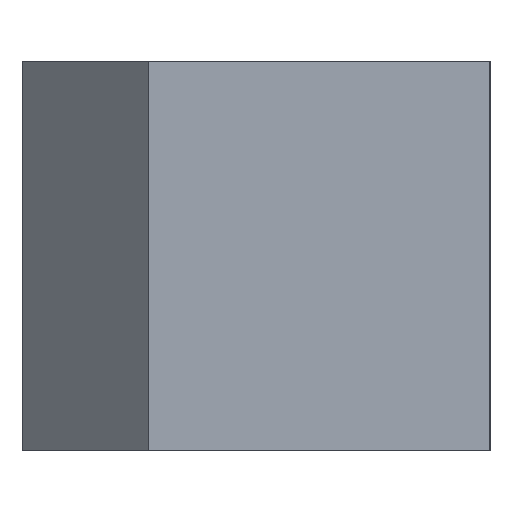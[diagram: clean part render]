
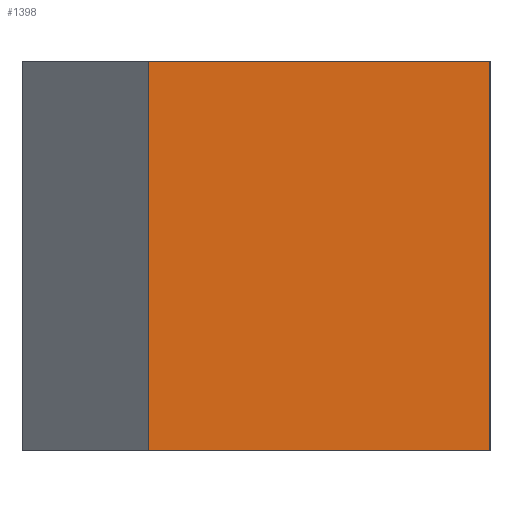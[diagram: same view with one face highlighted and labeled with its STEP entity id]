
A CAD part, left-side view. The second image highlights one B-rep face of the part: STEP entity #1398.
In plain terms, the highlighted planar face has unit normal (-1, 0, 0).
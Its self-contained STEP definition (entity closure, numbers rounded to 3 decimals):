
#44 = ORIENTED_EDGE ( 'NONE', *, *, #1358, .F. ) ;
#124 = AXIS2_PLACEMENT_3D ( 'NONE', #652, #407, #1060 ) ;
#128 = CARTESIAN_POINT ( 'NONE',  ( -33., 35., -20. ) ) ;
#176 = CARTESIAN_POINT ( 'NONE',  ( -33., 0., -20. ) ) ;
#192 = VECTOR ( 'NONE', #1424, 1000. ) ;
#209 = VERTEX_POINT ( 'NONE', #355 ) ;
#223 = ORIENTED_EDGE ( 'NONE', *, *, #757, .T. ) ;
#227 = ORIENTED_EDGE ( 'NONE', *, *, #905, .T. ) ;
#346 = CARTESIAN_POINT ( 'NONE',  ( -33., 35., 20. ) ) ;
#355 = CARTESIAN_POINT ( 'NONE',  ( -33., 35., -20. ) ) ;
#363 = CARTESIAN_POINT ( 'NONE',  ( -33., 48., 20. ) ) ;
#390 = EDGE_LOOP ( 'NONE', ( #836, #44, #223, #227 ) ) ;
#397 = DIRECTION ( 'NONE',  ( 0., 0., 1. ) ) ;
#407 = DIRECTION ( 'NONE',  ( 1., 0., 0. ) ) ;
#442 = FACE_OUTER_BOUND ( 'NONE', #390, .T. ) ;
#510 = LINE ( 'NONE', #793, #192 ) ;
#638 = DIRECTION ( 'NONE',  ( 0., -1., 0. ) ) ;
#652 = CARTESIAN_POINT ( 'NONE',  ( -33., 48., 20. ) ) ;
#662 = VERTEX_POINT ( 'NONE', #346 ) ;
#672 = LINE ( 'NONE', #128, #1327 ) ;
#757 = EDGE_CURVE ( 'NONE', #209, #1081, #861, .T. ) ;
#760 = EDGE_CURVE ( 'NONE', #662, #917, #1341, .T. ) ;
#786 = CARTESIAN_POINT ( 'NONE',  ( -33., 0., 20. ) ) ;
#793 = CARTESIAN_POINT ( 'NONE',  ( -33., 0., 20. ) ) ;
#836 = ORIENTED_EDGE ( 'NONE', *, *, #760, .F. ) ;
#861 = LINE ( 'NONE', #1027, #1651 ) ;
#905 = EDGE_CURVE ( 'NONE', #1081, #917, #510, .T. ) ;
#917 = VERTEX_POINT ( 'NONE', #786 ) ;
#1027 = CARTESIAN_POINT ( 'NONE',  ( -33., 48., -20. ) ) ;
#1060 = DIRECTION ( 'NONE',  ( 0., 0., -1. ) ) ;
#1081 = VERTEX_POINT ( 'NONE', #176 ) ;
#1210 = PLANE ( 'NONE',  #124 ) ;
#1290 = DIRECTION ( 'NONE',  ( 0., -1., 0. ) ) ;
#1327 = VECTOR ( 'NONE', #397, 1000. ) ;
#1341 = LINE ( 'NONE', #363, #1553 ) ;
#1358 = EDGE_CURVE ( 'NONE', #209, #662, #672, .T. ) ;
#1398 = ADVANCED_FACE ( 'NONE', ( #442 ), #1210, .F. ) ;
#1424 = DIRECTION ( 'NONE',  ( 0., 0., 1. ) ) ;
#1553 = VECTOR ( 'NONE', #638, 1000. ) ;
#1651 = VECTOR ( 'NONE', #1290, 1000. ) ;
